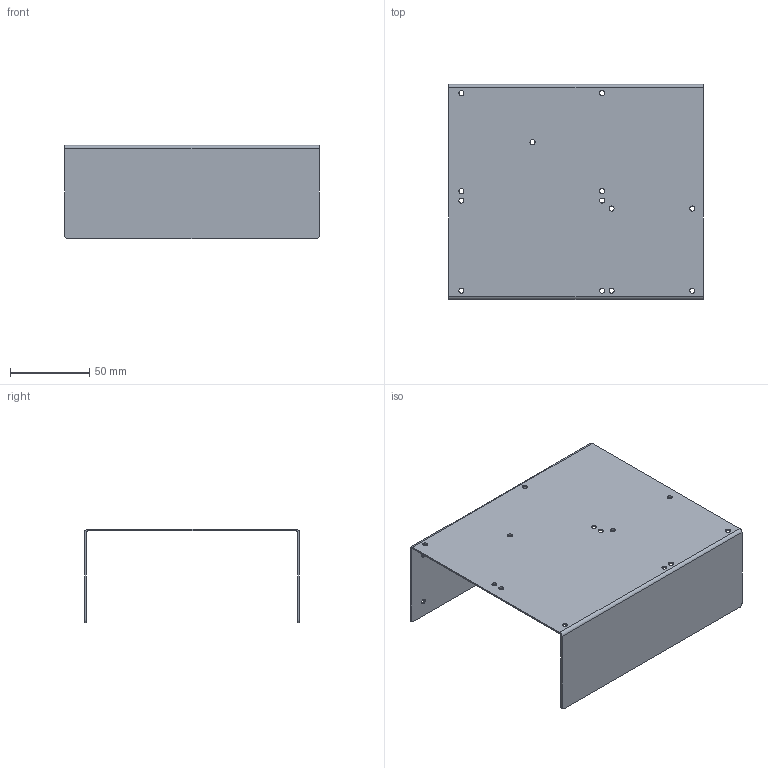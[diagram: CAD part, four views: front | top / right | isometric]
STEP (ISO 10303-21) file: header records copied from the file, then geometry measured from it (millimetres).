
FILE_DESCRIPTION(('FreeCAD Model'),'2;1');
FILE_NAME('Open CASCADE Shape Model','2021-12-19T00:15:26',('Author'),( ''),'Open CASCADE STEP processor 7.4','FreeCAD','Unknown');
FILE_SCHEMA(('AUTOMOTIVE_DESIGN { 1 0 10303 214 1 1 1 1 }'));
Length unit declared in the file: millimetre
Products named in the file (1): Cut011
Bounding box: 161 x 136 x 59 mm (x, y, z)
Volume: 40224.5 mm3; surface area: 81440 mm2
Topology: 1 solids, 1 shells, 43 faces, 107 edges, 66 vertices
Faces by surface type: cylinder 25, plane 18
Full cylindrical faces by diameter (mm): 3.2 x17
Entity records: 2796 total; most frequent: CARTESIAN_POINT 507, DIRECTION 443, LINE 217, VECTOR 217, ORIENTED_EDGE 214, PCURVE 214, DEFINITIONAL_REPRESENTATION 214, EDGE_CURVE 107
